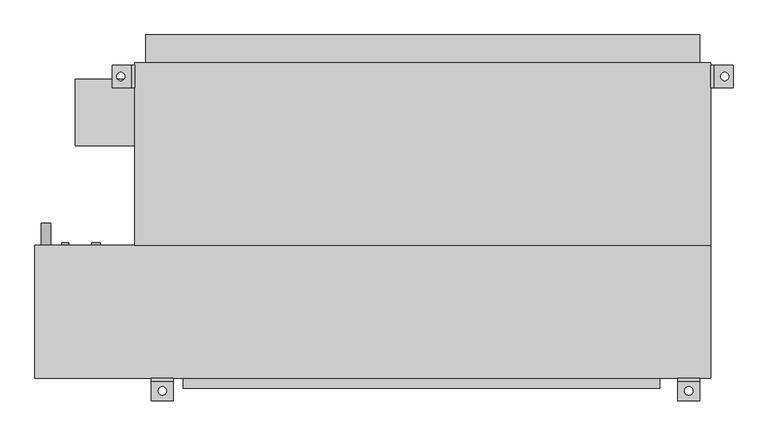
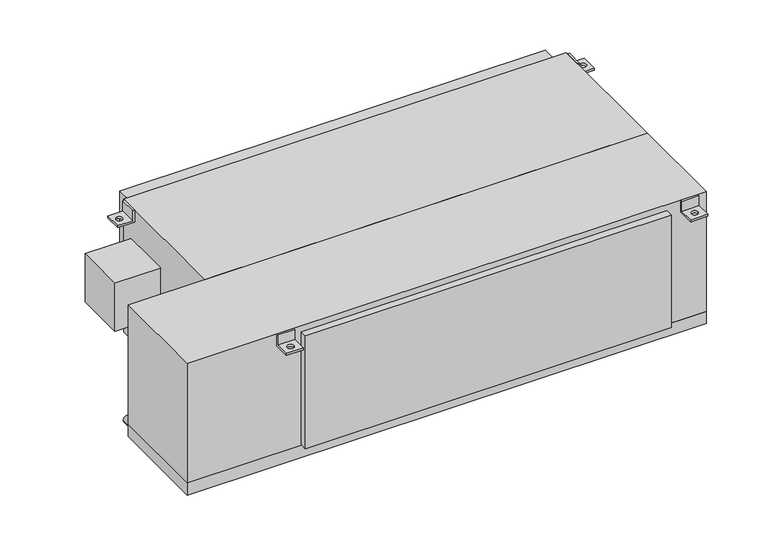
"""IFC4 building model written with IfcOpenShell, lengths in millimetres: proxy geometry, Concealed_High_Capacity_Horizontal_Fan_Coil_Unit_With_Plenum_-_42DCA_-_CARRIER_-_4-Pipe_ValveEnclosure_LH_2022 : Size 18 - 277v/60Hz/1Ph - 6/2 Coil."""

from ifc_helpers import new_model, si_unit, point, frame, frame_2d, origin, place, context, project, spatial, polyline, circle_curve, trimmed, segment, composite_curve, outline, extrude, source, transform, mapped, element, save
from ifc_brep_helpers import plane_surface, revolved_surface, advanced_brep


def mechanical_equipment_d068d5b9(model_context):
    return source(origin(), model_context, "Body", "SolidModel", [
        advanced_brep(
        [(787.4, -390.525, 0.0), (787.4, -396.875, 0.0), (787.4, -396.875, -31.75), (787.4, -441.325, -31.75), (787.4, -441.325, -38.1), (787.4, -390.525, -38.1), (736.6, -390.525, 0.0), (736.6, -390.525, -38.1), (736.6, -441.325, -38.1), (736.6, -441.325, -31.75), (736.6, -396.875, -31.75), (736.6, -396.875, 0.0), (752.475, -419.1, -31.75), (771.525, -419.1, -31.75), (771.525, -419.1, -38.1), (752.475, -419.1, -38.1)],
        [
            (0, 1),
            (1, 2),
            (2, 3),
            (3, 4),
            (4, 5),
            (5, 0),
            (6, 7),
            (7, 8),
            (8, 9),
            (9, 10),
            (10, 11),
            (11, 6),
            (0, 6),
            (11, 1),
            (10, 2),
            (9, 3),
            (12, 13, circle_curve(frame((762.0, -419.1, -31.75), z_axis=(0.0, 0.0, -1.0), x_axis=(1.0, 0.0, 0.0)), 9.525)),
            (13, 12, circle_curve(frame((762.0, -419.1, -31.75), z_axis=(0.0, 0.0, -1.0), x_axis=(1.0, 0.0, 0.0)), 9.525)),
            (8, 4),
            (7, 5),
            (14, 15, circle_curve(frame((762.0, -419.1, -38.1), z_axis=(0.0, 0.0, 1.0), x_axis=(1.0, 0.0, 0.0)), 9.525)),
            (15, 14, circle_curve(frame((762.0, -419.1, -38.1), z_axis=(0.0, 0.0, 1.0), x_axis=(1.0, 0.0, 0.0)), 9.525)),
            (12, 15),
            (14, 13),
        ],
        [
            plane_surface(frame((787.4, -396.875, 0.0), z_axis=(1.0, 0.0, 0.0), x_axis=(0.0, -1.0, 0.0))),
            plane_surface(frame((736.6, -396.875, 0.0), z_axis=(-1.0, 0.0, 0.0), x_axis=(0.0, 1.0, 0.0))),
            plane_surface(frame((787.4, -390.525, 0.0), z_axis=(0.0, 0.0, 1.0), x_axis=(-1.0, 0.0, 0.0))),
            plane_surface(frame((787.4, -396.875, 0.0), z_axis=(0.0, -1.0, 0.0), x_axis=(-1.0, 0.0, 0.0))),
            plane_surface(frame((787.4, -396.875, -31.75), z_axis=(0.0, 0.0, 1.0), x_axis=(-1.0, 0.0, 0.0))),
            plane_surface(frame((787.4, -441.325, -31.75), z_axis=(0.0, -1.0, 0.0), x_axis=(-1.0, 0.0, 0.0))),
            plane_surface(frame((787.4, -441.325, -38.1), z_axis=(0.0, 0.0, -1.0), x_axis=(-1.0, 0.0, 0.0))),
            plane_surface(frame((787.4, -390.525, -38.1), z_axis=(0.0, 1.0, 0.0), x_axis=(-1.0, 0.0, 0.0))),
            revolved_surface(polyline([(771.525, -419.1, -38.1), (771.525, -419.1, -31.75)]), (762.0, -419.1, -31.75), (0.0, 0.0, -1.0)),
        ],
        [
            (0, [[1, 2, 3, 4, 5, 6]]),
            (1, [[7, 8, 9, 10, 11, 12]]),
            (2, [[-1, 13, -12, 14]]),
            (3, [[-2, -14, -11, 15]]),
            (4, [[-3, -15, -10, 16], [17, 18]]),
            (5, [[-4, -16, -9, 19]]),
            (6, [[-5, -19, -8, 20], [21, 22]]),
            (7, [[-6, -20, -7, -13]]),
            (8, [[23, -21, 24, -17]]),
            (8, [[-23, -18, -24, -22]]),
        ],
    ),
        advanced_brep(
        [(-419.1, -390.525, -38.1), (-419.1, -390.525, 0.0), (-419.1, -396.875, 0.0), (-419.1, -396.875, -31.75), (-419.1, -441.325, -31.75), (-419.1, -441.325, -38.1), (-469.9, -390.525, -38.1), (-469.9, -441.325, -38.1), (-469.9, -441.325, -31.75), (-469.9, -396.875, -31.75), (-469.9, -396.875, 0.0), (-469.9, -390.525, 0.0), (-454.025, -419.1, -31.75), (-434.975, -419.1, -31.75), (-434.975, -419.1, -38.1), (-454.025, -419.1, -38.1)],
        [
            (0, 1),
            (1, 2),
            (2, 3),
            (3, 4),
            (4, 5),
            (5, 0),
            (6, 7),
            (7, 8),
            (8, 9),
            (9, 10),
            (10, 11),
            (11, 6),
            (0, 6),
            (11, 1),
            (10, 2),
            (9, 3),
            (8, 4),
            (12, 13, circle_curve(frame((-444.5, -419.1, -31.75), z_axis=(0.0, 0.0, -1.0), x_axis=(1.0, 0.0, 0.0)), 9.525)),
            (13, 12, circle_curve(frame((-444.5, -419.1, -31.75), z_axis=(0.0, 0.0, -1.0), x_axis=(1.0, 0.0, 0.0)), 9.525)),
            (7, 5),
            (14, 15, circle_curve(frame((-444.5, -419.1, -38.1), z_axis=(0.0, 0.0, 1.0), x_axis=(1.0, 0.0, 0.0)), 9.525)),
            (15, 14, circle_curve(frame((-444.5, -419.1, -38.1), z_axis=(0.0, 0.0, 1.0), x_axis=(1.0, 0.0, 0.0)), 9.525)),
            (12, 15),
            (14, 13),
        ],
        [
            plane_surface(frame((-419.1, -390.525, -38.1), z_axis=(1.0, 0.0, 0.0), x_axis=(0.0, 0.0, 1.0))),
            plane_surface(frame((-469.9, -390.525, -38.1), z_axis=(-1.0, 0.0, 0.0), x_axis=(0.0, 0.0, -1.0))),
            plane_surface(frame((-419.1, -390.525, -38.1), z_axis=(0.0, 1.0, 0.0), x_axis=(-1.0, 0.0, 0.0))),
            plane_surface(frame((-419.1, -390.525, 0.0), z_axis=(0.0, 0.0, 1.0), x_axis=(-1.0, 0.0, 0.0))),
            plane_surface(frame((-419.1, -396.875, 0.0), z_axis=(0.0, -1.0, 0.0), x_axis=(-1.0, 0.0, 0.0))),
            plane_surface(frame((-419.1, -396.875, -31.75), z_axis=(0.0, 0.0, 1.0), x_axis=(-1.0, 0.0, 0.0))),
            plane_surface(frame((-419.1, -441.325, -31.75), z_axis=(0.0, -1.0, 0.0), x_axis=(-1.0, 0.0, 0.0))),
            plane_surface(frame((-419.1, -441.325, -38.1), z_axis=(0.0, 0.0, -1.0), x_axis=(-1.0, 0.0, 0.0))),
            revolved_surface(polyline([(-434.975, -419.1, -38.1), (-434.975, -419.1, -31.75)]), (-444.5, -419.1, -31.75), (0.0, 0.0, -1.0)),
        ],
        [
            (0, [[1, 2, 3, 4, 5, 6]]),
            (1, [[7, 8, 9, 10, 11, 12]]),
            (2, [[-1, 13, -12, 14]]),
            (3, [[-2, -14, -11, 15]]),
            (4, [[-3, -15, -10, 16]]),
            (5, [[-4, -16, -9, 17], [18, 19]]),
            (6, [[-5, -17, -8, 20]]),
            (7, [[-6, -20, -7, -13], [21, 22]]),
            (8, [[23, -21, 24, -18]]),
            (8, [[-23, -19, -24, -22]]),
        ],
    ),
        extrude(outline(composite_curve([segment(trimmed(circle_curve(frame_2d((-400.05, -711.2)), 11.1125), [point((-400.05, -722.3125))], [point((-400.05, -700.0875))], False, "CARTESIAN"), True, "CONTINUOUS"), segment(trimmed(circle_curve(frame_2d((-400.05, -711.2)), 11.1125), [point((-400.05, -700.0875))], [point((-400.05, -722.3125))], False, "CARTESIAN"), True, "CONTINUOUS")], self_intersect=False)), frame((0.0, -85.725, 0.0), z_axis=(0.0, 1.0, 0.0), x_axis=(0.0, 0.0, 1.0)), (0.0, 0.0, 1.0), 50.8),
        extrude(outline(composite_curve([segment(trimmed(circle_curve(frame_2d((-44.45, -596.9)), 9.525), [point((-44.45, -606.425))], [point((-44.45, -587.375))], False, "CARTESIAN"), True, "CONTINUOUS"), segment(trimmed(circle_curve(frame_2d((-44.45, -596.9)), 9.525), [point((-44.45, -587.375))], [point((-44.45, -606.425))], False, "CARTESIAN"), True, "CONTINUOUS")], self_intersect=False)), frame((0.0, -85.725, 0.0), z_axis=(0.0, 1.0, 0.0), x_axis=(0.0, 0.0, 1.0)), (0.0, 0.0, 1.0), 6.35),
        extrude(outline(composite_curve([segment(trimmed(circle_curve(frame_2d((-276.225, -596.9)), 9.525), [point((-276.225, -606.425))], [point((-276.225, -587.375))], False, "CARTESIAN"), True, "CONTINUOUS"), segment(trimmed(circle_curve(frame_2d((-276.225, -596.9)), 9.525), [point((-276.225, -587.375))], [point((-276.225, -606.425))], False, "CARTESIAN"), True, "CONTINUOUS")], self_intersect=False)), frame((0.0, -85.725, 0.0), z_axis=(0.0, 1.0, 0.0), x_axis=(0.0, 0.0, 1.0)), (0.0, 0.0, 1.0), 6.35),
        extrude(outline(composite_curve([segment(trimmed(circle_curve(frame_2d((-69.85, -666.75)), 7.9375), [point((-69.85, -674.6875))], [point((-69.85, -658.8125))], False, "CARTESIAN"), True, "CONTINUOUS"), segment(trimmed(circle_curve(frame_2d((-69.85, -666.75)), 7.9375), [point((-69.85, -658.8125))], [point((-69.85, -674.6875))], False, "CARTESIAN"), True, "CONTINUOUS")], self_intersect=False)), frame((0.0, -85.725, 0.0), z_axis=(0.0, 1.0, 0.0), x_axis=(0.0, 0.0, 1.0)), (0.0, 0.0, 1.0), 6.35),
        extrude(outline(composite_curve([segment(trimmed(circle_curve(frame_2d((-285.75, -666.75)), 7.9375), [point((-285.75, -674.6875))], [point((-285.75, -658.8125))], False, "CARTESIAN"), True, "CONTINUOUS"), segment(trimmed(circle_curve(frame_2d((-285.75, -666.75)), 7.9375), [point((-285.75, -658.8125))], [point((-285.75, -674.6875))], False, "CARTESIAN"), True, "CONTINUOUS")], self_intersect=False)), frame((0.0, -85.725, 0.0), z_axis=(0.0, 1.0, 0.0), x_axis=(0.0, 0.0, 1.0)), (0.0, 0.0, 1.0), 6.35),
        advanced_brep(
        [(-508.0, 327.025, -38.1), (-558.8, 327.025, -38.1), (-558.8, 327.025, -31.75), (-514.35, 327.025, -31.75), (-514.35, 327.025, 0.0), (-508.0, 327.025, 0.0), (-508.0, 276.225, -38.1), (-508.0, 276.225, 0.0), (-514.35, 276.225, 0.0), (-514.35, 276.225, -31.75), (-558.8, 276.225, -31.75), (-558.8, 276.225, -38.1), (-539.75, 292.1, -38.1), (-539.75, 311.15, -38.1), (-539.75, 311.15, -31.75), (-539.75, 292.1, -31.75)],
        [
            (0, 1),
            (1, 2),
            (2, 3),
            (3, 4),
            (4, 5),
            (5, 0),
            (6, 7),
            (7, 8),
            (8, 9),
            (9, 10),
            (10, 11),
            (11, 6),
            (0, 6),
            (11, 1),
            (12, 13, circle_curve(frame((-539.75, 301.625, -38.1), z_axis=(0.0, 0.0, 1.0), x_axis=(0.0, -1.0, 0.0)), 9.525)),
            (13, 12, circle_curve(frame((-539.75, 301.625, -38.1), z_axis=(0.0, 0.0, 1.0), x_axis=(0.0, -1.0, 0.0)), 9.525)),
            (10, 2),
            (9, 3),
            (14, 15, circle_curve(frame((-539.75, 301.625, -31.75), z_axis=(0.0, 0.0, -1.0), x_axis=(0.0, -1.0, 0.0)), 9.525)),
            (15, 14, circle_curve(frame((-539.75, 301.625, -31.75), z_axis=(0.0, 0.0, -1.0), x_axis=(0.0, -1.0, 0.0)), 9.525)),
            (8, 4),
            (7, 5),
            (14, 13),
            (12, 15),
        ],
        [
            plane_surface(frame((-508.0, 327.025, -38.1), z_axis=(0.0, 1.0, 0.0), x_axis=(-1.0, 0.0, 0.0))),
            plane_surface(frame((-508.0, 276.225, -38.1), z_axis=(0.0, -1.0, 0.0), x_axis=(1.0, 0.0, 0.0))),
            plane_surface(frame((-508.0, 327.025, -38.1), z_axis=(0.0, 0.0, -1.0), x_axis=(0.0, -1.0, 0.0))),
            plane_surface(frame((-558.8, 327.025, -38.1), z_axis=(-1.0, 0.0, 0.0), x_axis=(0.0, -1.0, 0.0))),
            plane_surface(frame((-558.8, 327.025, -31.75), z_axis=(0.0, 0.0, 1.0), x_axis=(0.0, -1.0, 0.0))),
            plane_surface(frame((-514.35, 327.025, -31.75), z_axis=(-1.0, 0.0, 0.0), x_axis=(0.0, -1.0, 0.0))),
            plane_surface(frame((-514.35, 327.025, 0.0), z_axis=(0.0, 0.0, 1.0), x_axis=(0.0, -1.0, 0.0))),
            plane_surface(frame((-508.0, 327.025, 0.0), z_axis=(1.0, 0.0, 0.0), x_axis=(0.0, -1.0, 0.0))),
            revolved_surface(polyline([(-539.75, 292.1, -38.1), (-539.75, 292.1, -31.75)]), (-539.75, 301.625, -31.75), (0.0, 0.0, -1.0)),
        ],
        [
            (0, [[1, 2, 3, 4, 5, 6]]),
            (1, [[7, 8, 9, 10, 11, 12]]),
            (2, [[-1, 13, -12, 14], [15, 16]]),
            (3, [[-2, -14, -11, 17]]),
            (4, [[-3, -17, -10, 18], [19, 20]]),
            (5, [[-4, -18, -9, 21]]),
            (6, [[-5, -21, -8, 22]]),
            (7, [[-6, -22, -7, -13]]),
            (8, [[23, -15, 24, -19]]),
            (8, [[-23, -20, -24, -16]]),
        ],
    ),
        advanced_brep(
        [(812.8, 327.025, -38.1), (812.8, 327.025, 0.0), (819.15, 327.025, 0.0), (819.15, 327.025, -31.75), (863.6, 327.025, -31.75), (863.6, 327.025, -38.1), (812.8, 276.225, -38.1), (863.6, 276.225, -38.1), (863.6, 276.225, -31.75), (819.15, 276.225, -31.75), (819.15, 276.225, 0.0), (812.8, 276.225, 0.0), (844.55, 311.15, -31.75), (844.55, 292.1, -31.75), (844.55, 292.1, -38.1), (844.55, 311.15, -38.1)],
        [
            (0, 1),
            (1, 2),
            (2, 3),
            (3, 4),
            (4, 5),
            (5, 0),
            (6, 7),
            (7, 8),
            (8, 9),
            (9, 10),
            (10, 11),
            (11, 6),
            (0, 6),
            (11, 1),
            (10, 2),
            (9, 3),
            (8, 4),
            (12, 13, circle_curve(frame((844.55, 301.625, -31.75), z_axis=(0.0, 0.0, -1.0), x_axis=(0.0, -1.0, 0.0)), 9.525)),
            (13, 12, circle_curve(frame((844.55, 301.625, -31.75), z_axis=(0.0, 0.0, -1.0), x_axis=(0.0, -1.0, 0.0)), 9.525)),
            (7, 5),
            (14, 15, circle_curve(frame((844.55, 301.625, -38.1), z_axis=(0.0, 0.0, 1.0), x_axis=(0.0, -1.0, 0.0)), 9.525)),
            (15, 14, circle_curve(frame((844.55, 301.625, -38.1), z_axis=(0.0, 0.0, 1.0), x_axis=(0.0, -1.0, 0.0)), 9.525)),
            (12, 15),
            (14, 13),
        ],
        [
            plane_surface(frame((-508.0, 327.025, -38.1), z_axis=(0.0, 1.0, 0.0), x_axis=(-1.0, 0.0, 0.0))),
            plane_surface(frame((-508.0, 276.225, -38.1), z_axis=(0.0, -1.0, 0.0), x_axis=(1.0, 0.0, 0.0))),
            plane_surface(frame((812.8, 327.025, -38.1), z_axis=(-1.0, 0.0, 0.0), x_axis=(0.0, -1.0, 0.0))),
            plane_surface(frame((812.8, 327.025, 0.0), z_axis=(0.0, 0.0, 1.0), x_axis=(0.0, -1.0, 0.0))),
            plane_surface(frame((819.15, 327.025, 0.0), z_axis=(1.0, 0.0, 0.0), x_axis=(0.0, -1.0, 0.0))),
            plane_surface(frame((819.15, 327.025, -31.75), z_axis=(0.0, 0.0, 1.0), x_axis=(0.0, -1.0, 0.0))),
            plane_surface(frame((863.6, 327.025, -31.75), z_axis=(1.0, 0.0, 0.0), x_axis=(0.0, -1.0, 0.0))),
            plane_surface(frame((863.6, 327.025, -38.1), z_axis=(0.0, 0.0, -1.0), x_axis=(0.0, -1.0, 0.0))),
            revolved_surface(polyline([(844.55, 292.1, -38.1), (844.55, 292.1, -31.75)]), (844.55, 301.625, -31.75), (0.0, 0.0, -1.0)),
        ],
        [
            (0, [[1, 2, 3, 4, 5, 6]]),
            (1, [[7, 8, 9, 10, 11, 12]]),
            (2, [[-1, 13, -12, 14]]),
            (3, [[-2, -14, -11, 15]]),
            (4, [[-3, -15, -10, 16]]),
            (5, [[-4, -16, -9, 17], [18, 19]]),
            (6, [[-5, -17, -8, 20]]),
            (7, [[-6, -20, -7, -13], [21, 22]]),
            (8, [[23, -21, 24, -18]]),
            (8, [[-23, -19, -24, -22]]),
        ],
    ),
        extrude(outline(polyline([(-482.6, 396.875), (787.4, 396.875), (787.4, 333.375), (-482.6, 333.375), (-482.6, 396.875)])), frame((0.0, 0.0, -377.825), z_axis=(0.0, 0.0, 1.0), x_axis=(1.0, 0.0, 0.0)), (0.0, 0.0, 1.0), 355.6),
        extrude(outline(polyline([(-644.525, 142.875), (-644.525, 295.275), (-508.0, 295.275), (-508.0, 142.875), (-644.525, 142.875)])), frame((0.0, 0.0, -254.0), z_axis=(0.0, 0.0, 1.0), x_axis=(1.0, 0.0, 0.0)), (0.0, 0.0, 1.0), 152.4),
        extrude(outline(polyline([(695.325, -412.75), (-396.875, -412.75), (-396.875, -390.525), (695.325, -390.525), (695.325, -412.75)])), frame((0.0, 0.0, -374.65), z_axis=(0.0, 0.0, 1.0), x_axis=(1.0, 0.0, 0.0)), (0.0, 0.0, 1.0), 355.6),
        extrude(outline(polyline([(812.8, -85.725), (-508.0, -85.725), (-508.0, 333.375), (812.8, 333.375), (812.8, -85.725)])), frame((0.0, 0.0, -419.1), z_axis=(0.0, 0.0, 1.0), x_axis=(1.0, 0.0, 0.0)), (0.0, 0.0, 1.0), 419.1),
        extrude(outline(polyline([(812.8, -85.725), (812.8, -390.525), (-736.6, -390.525), (-736.6, -85.725), (812.8, -85.725)])), frame((0.0, 0.0, -377.825), z_axis=(0.0, 0.0, 1.0), x_axis=(1.0, 0.0, 0.0)), (0.0, 0.0, 1.0), 377.825),
        extrude(outline(polyline([(812.8, -85.725), (812.8, -390.525), (-736.6, -390.525), (-736.6, -85.725), (812.8, -85.725)])), frame((0.0, 0.0, -415.925), z_axis=(0.0, 0.0, 1.0), x_axis=(1.0, 0.0, 0.0)), (0.0, 0.0, 1.0), 38.1),
    ])


if __name__ == "__main__":
    model = new_model("IFC4")
    model_context = context("Model", 3, world=origin())
    ifc_project = project(units=[si_unit("LENGTHUNIT", "METRE", prefix="MILLI")], contexts=[model_context])
    site = spatial("IfcSite", under=ifc_project)
    building = spatial("IfcBuilding", under=site)
    placement = place(None, origin())
    mechanical_equipment_shape = mechanical_equipment_d068d5b9(model_context)
    element("IfcBuildingElementProxy", 1, Name="Concealed_High_Capacity_Horizontal_Fan_Coil_Unit_With_Plenum_-_42DCA_-_CARRIER_-_4-Pipe_ValveEnclosure_LH_2022 : Size 18 - 277v/60Hz/1Ph - 6/2 Coil", ObjectType="Concealed_High_Capacity_Horizontal_Fan_Coil_Unit_With_Plenum_-_42DCA_-_CARRIER_-_4-Pipe_ValveEnclosure_LH_2022 : Size 18 - 277v/60Hz/1Ph - 6/2 Coil", at=placement, inside=building, context=model_context, shape_type="MappedRepresentation", body=[
        mapped(mechanical_equipment_shape, transform((0.0, 0.0, 0.0), x_axis=(1.0, 0.0, 0.0), y_axis=(0.0, 1.0, 0.0), z_axis=(0.0, 0.0, 1.0))),
    ])
    save(model, "model.ifc")
